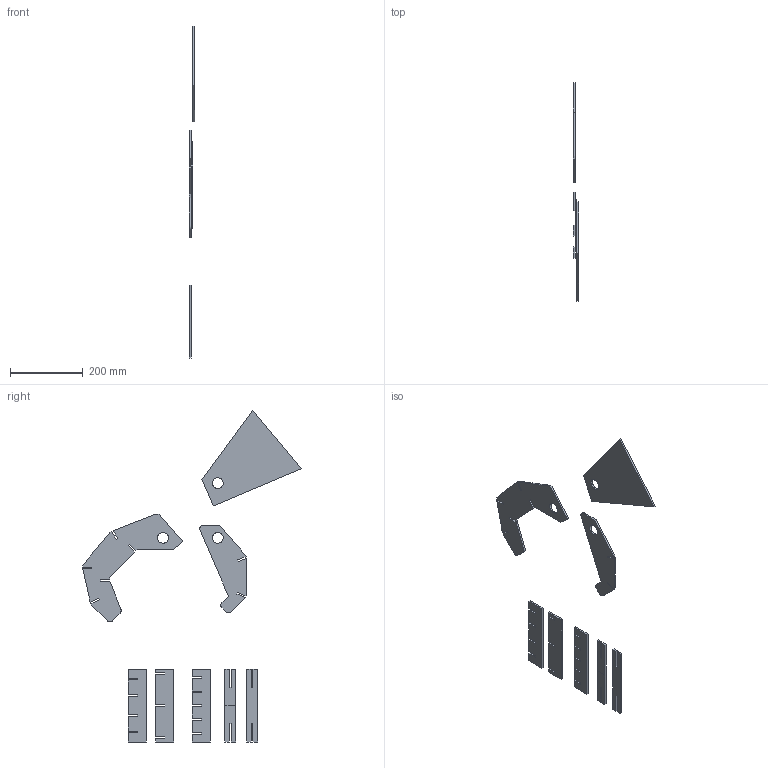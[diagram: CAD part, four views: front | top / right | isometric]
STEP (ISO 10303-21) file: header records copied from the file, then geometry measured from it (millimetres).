
FILE_DESCRIPTION(/* description */ (''),/* implementation_level */ '2;1');
FILE_NAME(/* name */ '/Users/ICER/Desktop/FabAcademyWeek3 v3.step',/* time_stamp */ '2016-02-18T01:32:27+09:00',/* author */ (''),/* organization */ (''),/* preprocessor_version */ 'ST-DEVELOPER v16.2',/* originating_system */ 'Autodesk Translation Framework v4.3.0.3010',/* authorisation */ '');
FILE_SCHEMA (('AUTOMOTIVE_DESIGN { 1 0 10303 214 3 1 1 }'));
Length unit declared in the file: centimetre
Products named in the file (1): FabAcademyWeek3 v3
Bounding box: 15 x 600 x 910.84 mm (x, y, z)
Volume: 587763.8 mm3; surface area: 267297.5 mm2
Topology: 9 solids, 9 shells, 164 faces, 439 edges, 293 vertices
Faces by surface type: plane 156, cylinder 8
Full cylindrical faces by diameter (mm): 30 x3
Entity records: 5031 total; most frequent: CARTESIAN_POINT 892, ORIENTED_EDGE 870, DIRECTION 781, EDGE_CURVE 435, LINE 419, VECTOR 419, VERTEX_POINT 292, AXIS2_PLACEMENT_3D 181
